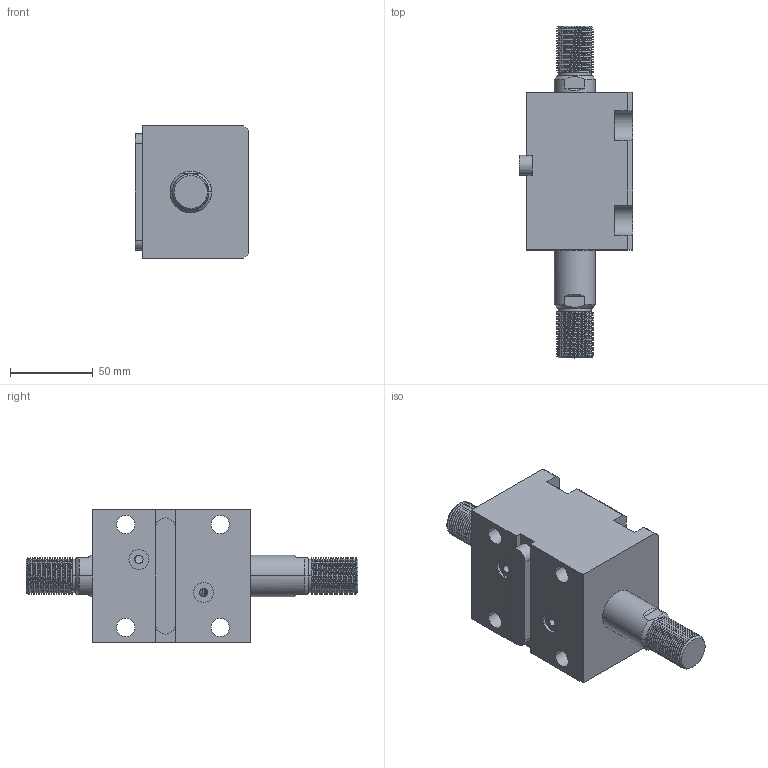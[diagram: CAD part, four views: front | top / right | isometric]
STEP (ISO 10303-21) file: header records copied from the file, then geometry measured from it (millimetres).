
FILE_DESCRIPTION (( 'STEP AP214' ), '1' );
FILE_NAME ('chtb-lwm40x25w_asm.STEP', '2018-05-31T00:31:50', ( 'Windows' ), ( 'Microsoft' ), 'SwSTEP 2.0', 'SolidWorks 2015', '' );
FILE_SCHEMA (( 'AUTOMOTIVE_DESIGN' ));
Length unit declared in the file: millimetre
Products named in the file (5): CHTB-SW40X25NHSG; CHTB-SD40QG; CHTB-LWM40X25NBT; CHTB-LA40PJ; chtb-lwm40x25w_asm
Assembly tree (4 placements, depth 2):
  chtb-lwm40x25w_asm
    CHTB-LA40PJ
    CHTB-LWM40X25NBT
    CHTB-SD40QG
    CHTB-SW40X25NHSG
Bounding box: 68.5 x 200 x 80 mm (x, y, z)
Volume: 476881.4 mm3; surface area: 90685.5 mm2
Topology: 4 solids, 4 shells, 252 faces, 699 edges, 465 vertices
Faces by surface type: cylinder 152, plane 57, bspline 18, cone 13, torus 12
Entity records: 17373 total; most frequent: CARTESIAN_POINT 11260, ORIENTED_EDGE 1386, DIRECTION 1092, EDGE_CURVE 693, VERTEX_POINT 465, AXIS2_PLACEMENT_3D 419, EDGE_LOOP 284, LINE 254
